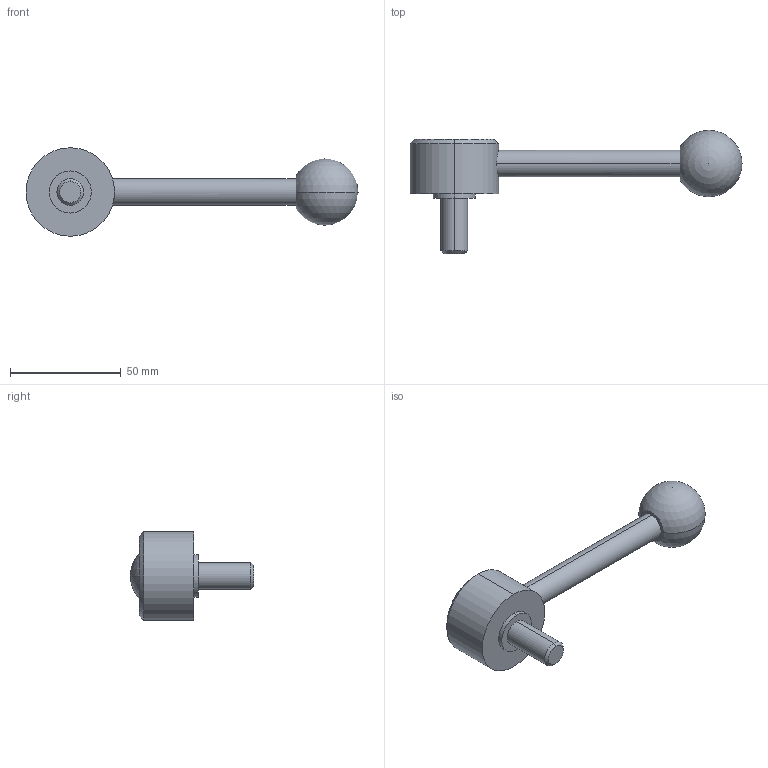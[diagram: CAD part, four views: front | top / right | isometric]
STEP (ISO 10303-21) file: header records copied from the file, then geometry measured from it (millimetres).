
FILE_DESCRIPTION (( 'STEP AP214' ), '1' );
FILE_NAME ('125.5-40-M12-25-D.step', '2020-02-18T11:35:38', ( '' ), ( '' ), 'SwSTEP 2.0', 'SolidWorks 2019', '' );
FILE_SCHEMA (( 'AUTOMOTIVE_DESIGN' ));
Length unit declared in the file: millimetre
Products named in the file (1): 125.5-40-M12-25-D
Bounding box: 150 x 55.7 x 40 mm (x, y, z)
Volume: 57289.9 mm3; surface area: 12182.5 mm2
Topology: 1 solids, 1 shells, 22 faces, 47 edges, 30 vertices
Faces by surface type: cylinder 10, plane 6, cone 4, sphere 2
Entity records: 748 total; most frequent: CARTESIAN_POINT 176, DIRECTION 112, ORIENTED_EDGE 84, AXIS2_PLACEMENT_3D 49, EDGE_CURVE 42, VERTEX_POINT 27, EDGE_LOOP 27, CIRCLE 26
